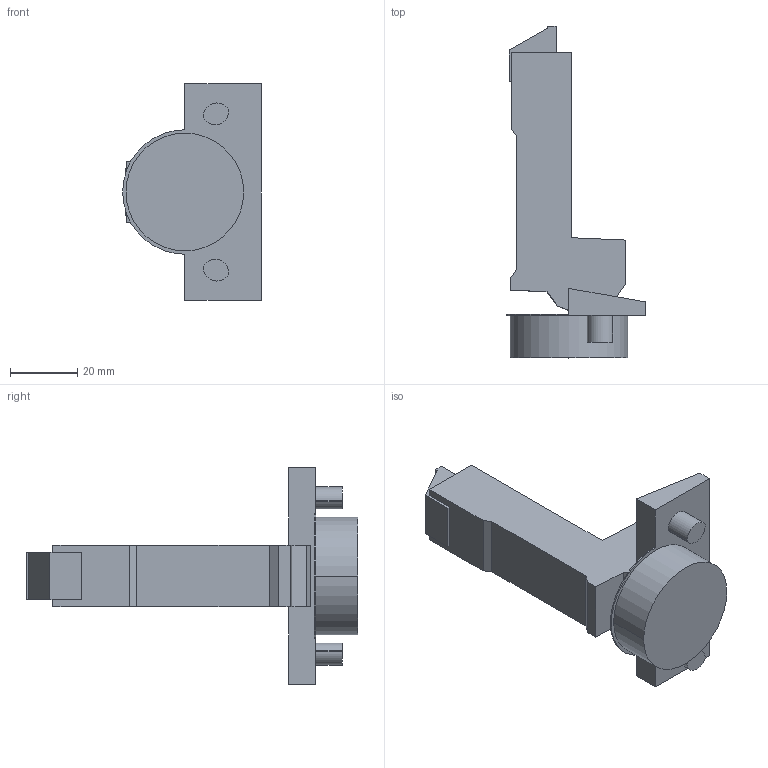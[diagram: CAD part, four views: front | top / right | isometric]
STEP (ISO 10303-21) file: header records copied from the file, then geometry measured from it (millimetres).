
FILE_DESCRIPTION (( 'STEP AP214' ), '1' );
FILE_NAME ('Scharnier TS Impresso 95° MB_BB, K19.step', '2018-10-02T12:12:20', ( '' ), ( '' ), 'SwSTEP 2.0', 'SolidWorks 2017', '' );
FILE_SCHEMA (( 'AUTOMOTIVE_DESIGN' ));
Length unit declared in the file: millimetre
Products named in the file (1): Scharnier TS Impresso 95° MB_BB, K19
Bounding box: 41.25 x 98.7 x 64.5 mm (x, y, z)
Volume: 49701.2 mm3; surface area: 13426.7 mm2
Topology: 1 solids, 1 shells, 55 faces, 141 edges, 94 vertices
Faces by surface type: plane 39, cylinder 16
Entity records: 1701 total; most frequent: CARTESIAN_POINT 291, DIRECTION 285, ORIENTED_EDGE 282, EDGE_CURVE 141, LINE 109, VECTOR 109, VERTEX_POINT 94, AXIS2_PLACEMENT_3D 88
